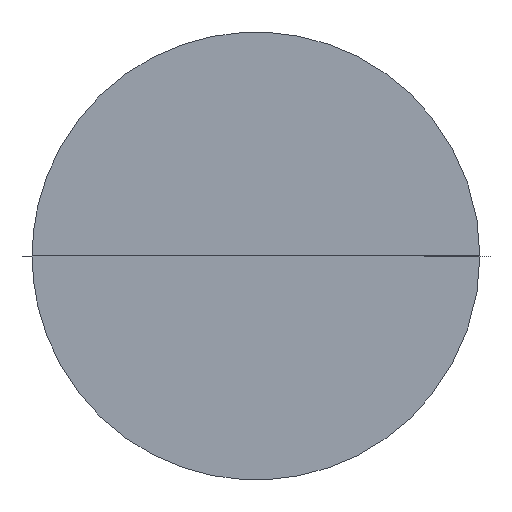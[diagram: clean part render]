
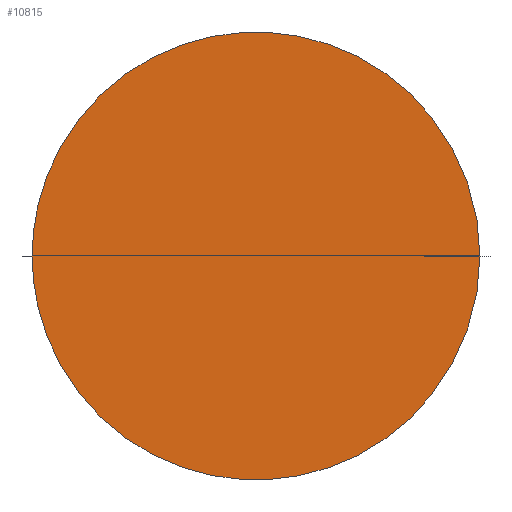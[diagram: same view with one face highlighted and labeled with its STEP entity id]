
A CAD part, top view. The second image highlights one B-rep face of the part: STEP entity #10815.
In plain terms, the highlighted planar face has unit normal (0, 0, 1).
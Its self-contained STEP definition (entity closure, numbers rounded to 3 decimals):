
#2627=PLANE('',#14147);
#10815=ADVANCED_FACE('',(#11009),#2627,.T.);
#11009=FACE_OUTER_BOUND('',#11217,.T.);
#11217=EDGE_LOOP('',(#11678,#11679));
#11678=ORIENTED_EDGE('',*,*,#12172,.T.);
#11679=ORIENTED_EDGE('',*,*,#12173,.F.);
#12172=EDGE_CURVE('',#13859,#13860,#13379,.T.);
#12173=EDGE_CURVE('',#13859,#13860,#13380,.T.);
#13379=(
BOUNDED_CURVE()
B_SPLINE_CURVE(2,(#24273,#24274,#24275,#24276,#24277),.UNSPECIFIED.,.F.,
 .F.)
B_SPLINE_CURVE_WITH_KNOTS((3,2,3),(0.,1.571,3.142),
 .UNSPECIFIED.)
CURVE()
GEOMETRIC_REPRESENTATION_ITEM()
RATIONAL_B_SPLINE_CURVE((1.,0.707,1.,0.707,1.))
REPRESENTATION_ITEM('')
);
#13380=(
BOUNDED_CURVE()
B_SPLINE_CURVE(2,(#24278,#24279,#24280,#24281,#24282),.UNSPECIFIED.,.F.,
 .F.)
B_SPLINE_CURVE_WITH_KNOTS((3,2,3),(0.,1.571,3.142),
 .UNSPECIFIED.)
CURVE()
GEOMETRIC_REPRESENTATION_ITEM()
RATIONAL_B_SPLINE_CURVE((1.,0.707,1.,0.707,1.))
REPRESENTATION_ITEM('')
);
#13859=VERTEX_POINT('',#24271);
#13860=VERTEX_POINT('',#24272);
#14147=AXIS2_PLACEMENT_3D('',#24270,#14743,$);
#14743=DIRECTION('',(0.,0.,1.));
#24270=CARTESIAN_POINT('',(290.281,290.048,392.21));
#24271=CARTESIAN_POINT('',(286.837,-0.396,392.21));
#24272=CARTESIAN_POINT('',(-287.163,-0.396,392.21));
#24273=CARTESIAN_POINT('',(286.837,-0.396,392.21));
#24274=CARTESIAN_POINT('',(286.837,286.604,392.21));
#24275=CARTESIAN_POINT('',(-0.163,286.604,392.21));
#24276=CARTESIAN_POINT('',(-287.163,286.604,392.21));
#24277=CARTESIAN_POINT('',(-287.163,-0.396,392.21));
#24278=CARTESIAN_POINT('',(286.837,-0.396,392.21));
#24279=CARTESIAN_POINT('',(286.837,-287.396,392.21));
#24280=CARTESIAN_POINT('',(-0.163,-287.396,392.21));
#24281=CARTESIAN_POINT('',(-287.163,-287.396,392.21));
#24282=CARTESIAN_POINT('',(-287.163,-0.396,392.21));
